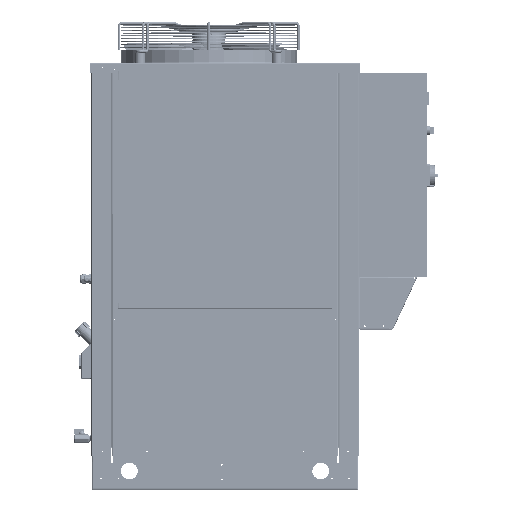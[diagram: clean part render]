
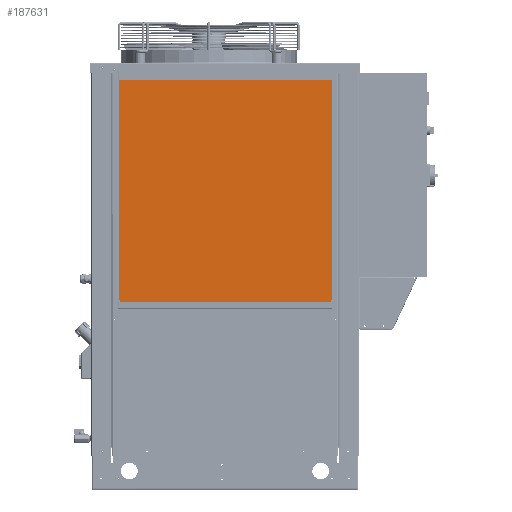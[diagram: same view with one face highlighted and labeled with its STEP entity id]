
A CAD part, top view. The second image highlights one B-rep face of the part: STEP entity #187631.
In plain terms, the highlighted planar face has unit normal (0, 0, 1).
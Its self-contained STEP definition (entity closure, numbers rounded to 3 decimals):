
#3061 = ORIENTED_EDGE ( 'NONE', *, *, #58121, .T. ) ;
#10414 = AXIS2_PLACEMENT_3D ( 'NONE', #277718, #367785, #544880 ) ;
#19162 = VERTEX_POINT ( 'NONE', #422538 ) ;
#20609 = CARTESIAN_POINT ( 'NONE',  ( 301., 340., 2. ) ) ;
#27621 = AXIS2_PLACEMENT_3D ( 'NONE', #142767, #317165, #96272 ) ;
#29479 = VECTOR ( 'NONE', #379808, 1000. ) ;
#35680 = ORIENTED_EDGE ( 'NONE', *, *, #350109, .T. ) ;
#50386 = CARTESIAN_POINT ( 'NONE',  ( -313., -328., 2. ) ) ;
#50704 = ORIENTED_EDGE ( 'NONE', *, *, #213091, .T. ) ;
#58121 = EDGE_CURVE ( 'NONE', #237238, #522319, #336966, .T. ) ;
#66457 = AXIS2_PLACEMENT_3D ( 'NONE', #117413, #471780, #73786 ) ;
#73786 = DIRECTION ( 'NONE',  ( 1., 0., 0. ) ) ;
#83023 = CARTESIAN_POINT ( 'NONE',  ( 313., -328., 2. ) ) ;
#92333 = CARTESIAN_POINT ( 'NONE',  ( -301., 340., 2. ) ) ;
#96272 = DIRECTION ( 'NONE',  ( 1., 0., 0. ) ) ;
#96673 = DIRECTION ( 'NONE',  ( 1., 0., 0. ) ) ;
#100484 = FACE_OUTER_BOUND ( 'NONE', #314599, .T. ) ;
#100882 = AXIS2_PLACEMENT_3D ( 'NONE', #247538, #157453, #430416 ) ;
#101739 = CARTESIAN_POINT ( 'NONE',  ( -301., 328., 2. ) ) ;
#109676 = CARTESIAN_POINT ( 'NONE',  ( -301., -340., 2. ) ) ;
#117413 = CARTESIAN_POINT ( 'NONE',  ( 301., 328., 2. ) ) ;
#118878 = VECTOR ( 'NONE', #551902, 1000. ) ;
#121033 = ORIENTED_EDGE ( 'NONE', *, *, #232713, .T. ) ;
#124158 = VECTOR ( 'NONE', #173446, 1000. ) ;
#142767 = CARTESIAN_POINT ( 'NONE',  ( 301., -328., 2. ) ) ;
#157453 = DIRECTION ( 'NONE',  ( 0., 0., 1. ) ) ;
#159232 = EDGE_CURVE ( 'NONE', #416807, #237238, #257612, .T. ) ;
#173446 = DIRECTION ( 'NONE',  ( 0., 1., 0. ) ) ;
#175391 = CARTESIAN_POINT ( 'NONE',  ( -313., 328., 2. ) ) ;
#186116 = DIRECTION ( 'NONE',  ( 1., 0., 0. ) ) ;
#187631 = ADVANCED_FACE ( 'NONE', ( #100484 ), #234155, .T. ) ;
#196156 = ORIENTED_EDGE ( 'NONE', *, *, #159232, .T. ) ;
#213091 = EDGE_CURVE ( 'NONE', #345565, #416807, #292675, .T. ) ;
#219892 = LINE ( 'NONE', #312820, #124158 ) ;
#232713 = EDGE_CURVE ( 'NONE', #395855, #339141, #463459, .T. ) ;
#234155 = PLANE ( 'NONE',  #10414 ) ;
#236652 = EDGE_CURVE ( 'NONE', #360186, #395855, #538216, .T. ) ;
#237238 = VERTEX_POINT ( 'NONE', #175391 ) ;
#247538 = CARTESIAN_POINT ( 'NONE',  ( -301., -328., 2. ) ) ;
#256617 = CARTESIAN_POINT ( 'NONE',  ( 301., -340., 2. ) ) ;
#257612 = CIRCLE ( 'NONE', #433838, 12. ) ;
#277718 = CARTESIAN_POINT ( 'NONE',  ( -301., 328., 2. ) ) ;
#286937 = CARTESIAN_POINT ( 'NONE',  ( -301., 340., 2. ) ) ;
#292675 = LINE ( 'NONE', #286937, #29479 ) ;
#312820 = CARTESIAN_POINT ( 'NONE',  ( 313., -328., 2. ) ) ;
#314599 = EDGE_LOOP ( 'NONE', ( #196156, #3061, #35680, #516410, #121033, #414797, #356366, #50704 ) ) ;
#317165 = DIRECTION ( 'NONE',  ( 0., 0., 1. ) ) ;
#324639 = VECTOR ( 'NONE', #96673, 1000. ) ;
#336966 = LINE ( 'NONE', #560477, #118878 ) ;
#339141 = VERTEX_POINT ( 'NONE', #83023 ) ;
#341284 = EDGE_CURVE ( 'NONE', #19162, #345565, #391635, .T. ) ;
#345565 = VERTEX_POINT ( 'NONE', #20609 ) ;
#350109 = EDGE_CURVE ( 'NONE', #522319, #360186, #564435, .T. ) ;
#356366 = ORIENTED_EDGE ( 'NONE', *, *, #341284, .T. ) ;
#360186 = VERTEX_POINT ( 'NONE', #109676 ) ;
#367785 = DIRECTION ( 'NONE',  ( 0., 0., 1. ) ) ;
#379808 = DIRECTION ( 'NONE',  ( -1., 0., 0. ) ) ;
#391635 = CIRCLE ( 'NONE', #66457, 12. ) ;
#395855 = VERTEX_POINT ( 'NONE', #256617 ) ;
#414797 = ORIENTED_EDGE ( 'NONE', *, *, #563632, .T. ) ;
#416807 = VERTEX_POINT ( 'NONE', #92333 ) ;
#422538 = CARTESIAN_POINT ( 'NONE',  ( 313., 328., 2. ) ) ;
#430416 = DIRECTION ( 'NONE',  ( 1., 0., 0. ) ) ;
#433838 = AXIS2_PLACEMENT_3D ( 'NONE', #101739, #496866, #186116 ) ;
#463459 = CIRCLE ( 'NONE', #27621, 12. ) ;
#471780 = DIRECTION ( 'NONE',  ( 0., 0., 1. ) ) ;
#494660 = CARTESIAN_POINT ( 'NONE',  ( -301., -340., 2. ) ) ;
#496866 = DIRECTION ( 'NONE',  ( 0., 0., 1. ) ) ;
#516410 = ORIENTED_EDGE ( 'NONE', *, *, #236652, .T. ) ;
#522319 = VERTEX_POINT ( 'NONE', #50386 ) ;
#538216 = LINE ( 'NONE', #494660, #324639 ) ;
#544880 = DIRECTION ( 'NONE',  ( 1., 0., 0. ) ) ;
#551902 = DIRECTION ( 'NONE',  ( 0., -1., 0. ) ) ;
#560477 = CARTESIAN_POINT ( 'NONE',  ( -313., -328., 2. ) ) ;
#563632 = EDGE_CURVE ( 'NONE', #339141, #19162, #219892, .T. ) ;
#564435 = CIRCLE ( 'NONE', #100882, 12. ) ;
